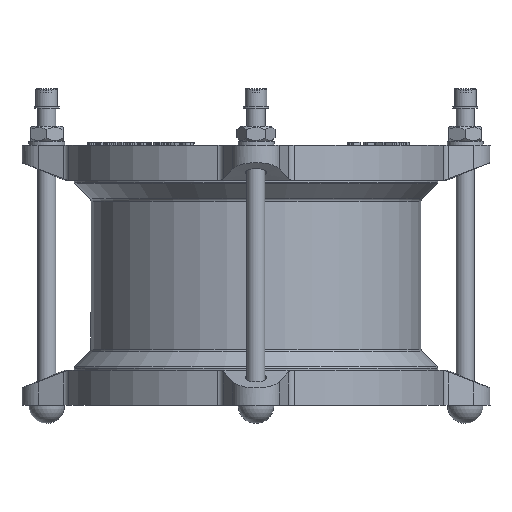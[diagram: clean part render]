
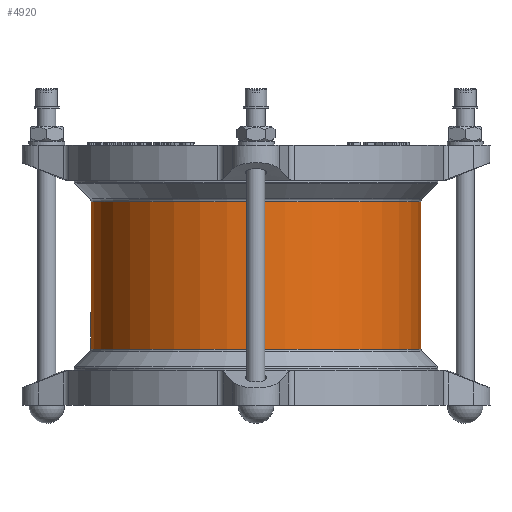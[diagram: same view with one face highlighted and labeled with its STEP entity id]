
A CAD part, front view. The second image highlights one B-rep face of the part: STEP entity #4920.
In plain terms, the highlighted cylindrical face has radius 110 mm (diameter 220 mm), a full revolution.
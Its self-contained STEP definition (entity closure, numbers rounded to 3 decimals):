
#4920=ADVANCED_FACE('',(#9173,#9175),#9177,.T.);
#9173=FACE_OUTER_BOUND('',#9174,.T.);
#9174=EDGE_LOOP('',(#13609));
#9175=FACE_OUTER_BOUND('',#9176,.T.);
#9176=EDGE_LOOP('',(#13610));
#9177=CYLINDRICAL_SURFACE('',#9178,110.);
#9178=AXIS2_PLACEMENT_3D('',#9179,#9180,#9181);
#9179=CARTESIAN_POINT('',(0.,0.,50.214));
#9180=DIRECTION('',(0.,0.,-1.));
#9181=DIRECTION('',(0.,1.,0.));
#13609=ORIENTED_EDGE('',*,*,#15552,.T.);
#13610=ORIENTED_EDGE('',*,*,#15553,.F.);
#15552=EDGE_CURVE('',#18139,#18139,#18140,.T.);
#15553=EDGE_CURVE('',#18141,#18141,#18142,.T.);
#18139=VERTEX_POINT('',#26261);
#18140=CIRCLE('',#26262,110.);
#18141=VERTEX_POINT('',#26266);
#18142=CIRCLE('',#26267,110.);
#26261=CARTESIAN_POINT('',(0.,110.,49.179));
#26262=AXIS2_PLACEMENT_3D('',#26263,#26264,#26265);
#26263=CARTESIAN_POINT('',(0.,0.,49.179));
#26264=DIRECTION('',(0.,0.,-1.));
#26265=DIRECTION('',(0.,1.,0.));
#26266=CARTESIAN_POINT('',(0.,110.,-49.179));
#26267=AXIS2_PLACEMENT_3D('',#26268,#26269,#26270);
#26268=CARTESIAN_POINT('',(0.,0.,-49.179));
#26269=DIRECTION('',(0.,0.,-1.));
#26270=DIRECTION('',(0.,1.,0.));
